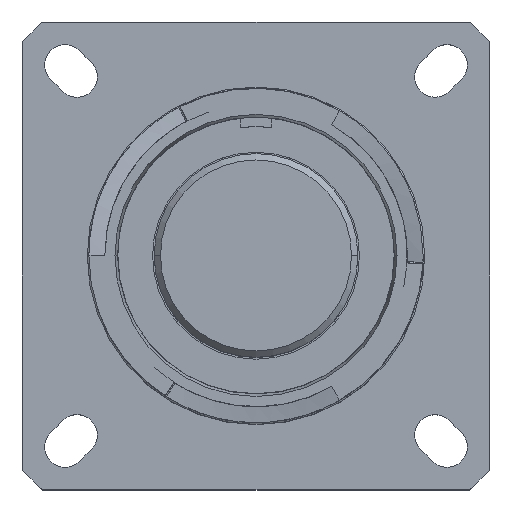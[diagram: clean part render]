
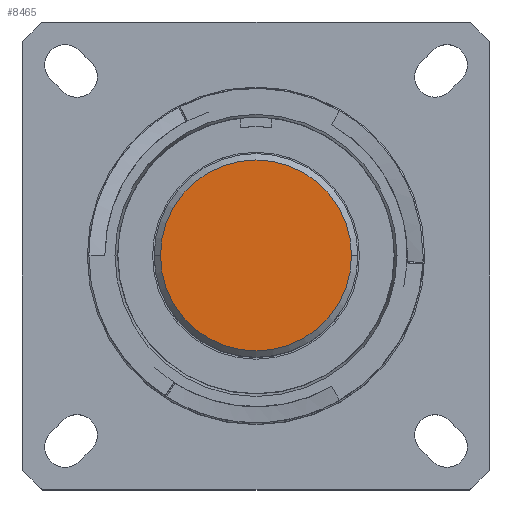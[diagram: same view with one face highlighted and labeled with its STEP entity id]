
A CAD part, top view. The second image highlights one B-rep face of the part: STEP entity #8465.
In plain terms, the highlighted planar face has unit normal (0, 0, 1).
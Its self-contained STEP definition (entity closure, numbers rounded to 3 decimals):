
#736 = CIRCLE ( 'NONE', #5888, 7.62 ) ;
#1014 = EDGE_CURVE ( 'NONE', #1605, #6759, #8746, .T. ) ;
#1116 = CARTESIAN_POINT ( 'NONE',  ( -7.62, 0., -0.457 ) ) ;
#1403 = PLANE ( 'NONE',  #7870 ) ;
#1605 = VERTEX_POINT ( 'NONE', #1116 ) ;
#1985 = CARTESIAN_POINT ( 'NONE',  ( 0., 0., -0.457 ) ) ;
#2553 = DIRECTION ( 'NONE',  ( 0., 0., 1. ) ) ;
#2652 = EDGE_CURVE ( 'NONE', #6759, #1605, #736, .T. ) ;
#2834 = ORIENTED_EDGE ( 'NONE', *, *, #1014, .T. ) ;
#3361 = DIRECTION ( 'NONE',  ( 1., 0., 0. ) ) ;
#3660 = CARTESIAN_POINT ( 'NONE',  ( 7.62, 0., -0.457 ) ) ;
#3819 = DIRECTION ( 'NONE',  ( 1., 0., 0. ) ) ;
#4919 = DIRECTION ( 'NONE',  ( 0., 0., 1. ) ) ;
#5344 = DIRECTION ( 'NONE',  ( 0., 0., 1. ) ) ;
#5395 = EDGE_LOOP ( 'NONE', ( #2834, #7932 ) ) ;
#5888 = AXIS2_PLACEMENT_3D ( 'NONE', #6660, #2553, #3361 ) ;
#6660 = CARTESIAN_POINT ( 'NONE',  ( 0., 0., -0.457 ) ) ;
#6759 = VERTEX_POINT ( 'NONE', #3660 ) ;
#7443 = DIRECTION ( 'NONE',  ( 1., 0., 0. ) ) ;
#7870 = AXIS2_PLACEMENT_3D ( 'NONE', #8456, #5344, #3819 ) ;
#7932 = ORIENTED_EDGE ( 'NONE', *, *, #2652, .T. ) ;
#8456 = CARTESIAN_POINT ( 'NONE',  ( 0., 0., -0.457 ) ) ;
#8465 = ADVANCED_FACE ( 'NONE', ( #9867 ), #1403, .T. ) ;
#8746 = CIRCLE ( 'NONE', #9549, 7.62 ) ;
#9549 = AXIS2_PLACEMENT_3D ( 'NONE', #1985, #4919, #7443 ) ;
#9867 = FACE_OUTER_BOUND ( 'NONE', #5395, .T. ) ;
